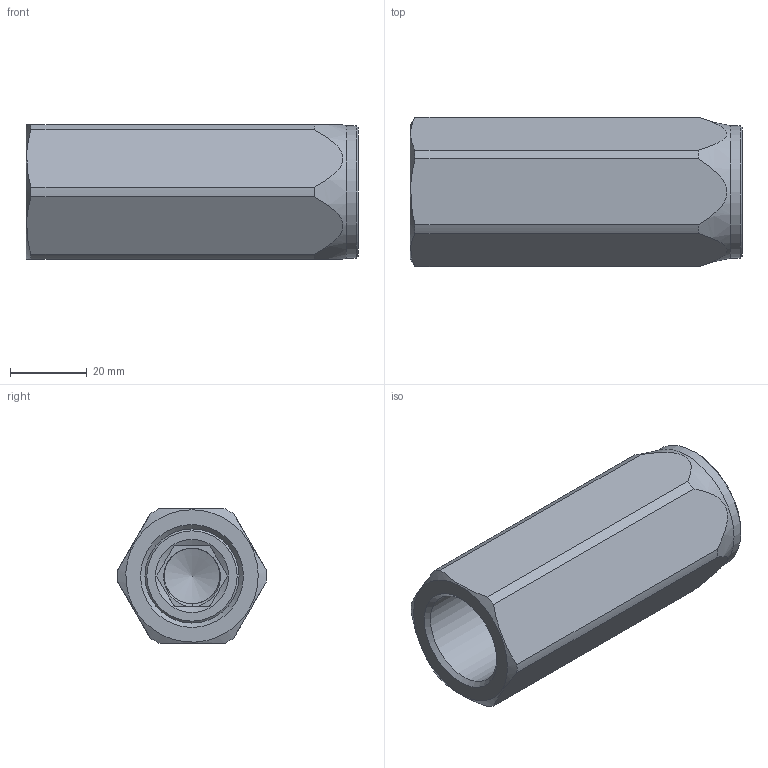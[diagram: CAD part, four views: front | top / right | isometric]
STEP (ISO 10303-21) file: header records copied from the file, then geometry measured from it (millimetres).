
FILE_DESCRIPTION (( 'STEP AP214' ), '1' );
FILE_NAME ('VUR340.STEP', '2020-06-12T11:35:31', ( '' ), ( '' ), 'SwSTEP 2.0', 'SolidWorks 2017', '' );
FILE_SCHEMA (( 'AUTOMOTIVE_DESIGN' ));
Length unit declared in the file: millimetre
Products named in the file (1): VUR340
Bounding box: 86.5 x 38.99 x 35 mm (x, y, z)
Volume: 57667.8 mm3; surface area: 25729.1 mm2
Topology: 4 solids, 4 shells, 75 faces, 169 edges, 105 vertices
Faces by surface type: plane 26, cylinder 23, cone 18, bspline 5, torus 3
Full cylindrical faces by diameter (mm): 7.5 x4, 16 x1, 17 x1, 19.7 x1, 20 x1, 21 x1, 23 x2, 24.5 x2, 26 x1, 26.441 x1, 26.7 x1, 34.5 x1
Entity records: 5013 total; most frequent: CARTESIAN_POINT 2699, DIRECTION 285, ORIENTED_EDGE 234, EDGE_LOOP 132, AXIS2_PLACEMENT_3D 130, EDGE_CURVE 117, FACE_OUTER_BOUND 97, VERTEX_POINT 95
